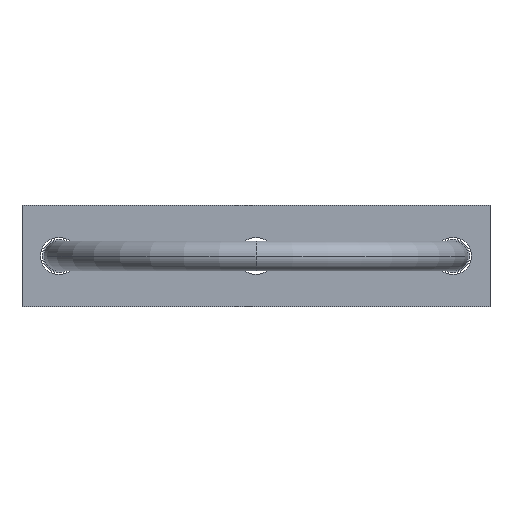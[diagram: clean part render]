
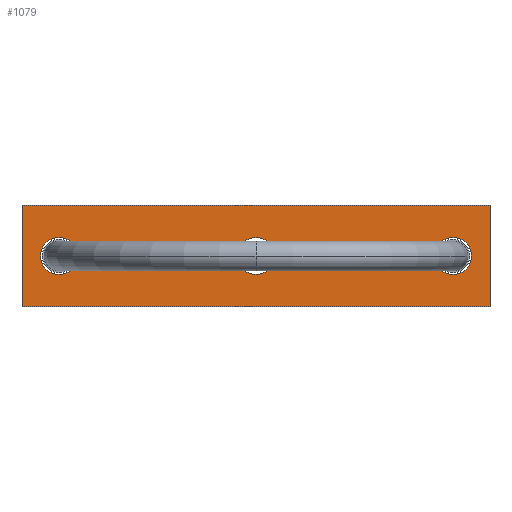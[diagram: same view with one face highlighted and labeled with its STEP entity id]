
A CAD part, front view. The second image highlights one B-rep face of the part: STEP entity #1079.
In plain terms, the highlighted planar face has unit normal (0, -1, 0).
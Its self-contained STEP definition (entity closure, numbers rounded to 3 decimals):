
#700=CARTESIAN_POINT('',(0.,67.53,0.));
#701=DIRECTION('',(0.,1.,0.));
#702=DIRECTION('',(1.,0.,0.));
#703=AXIS2_PLACEMENT_3D('',#700,#701,#702);
#708=CARTESIAN_POINT('',(0.,67.53,0.));
#709=DIRECTION('',(0.,1.,0.));
#710=DIRECTION('',(0.,0.,1.));
#711=AXIS2_PLACEMENT_3D('',#708,#709,#710);
#716=CARTESIAN_POINT('',(0.,67.53,0.));
#717=DIRECTION('',(0.,1.,0.));
#718=DIRECTION('',(-1.,0.,0.));
#719=AXIS2_PLACEMENT_3D('',#716,#717,#718);
#724=CARTESIAN_POINT('',(0.,67.53,0.));
#725=DIRECTION('',(0.,1.,0.));
#726=DIRECTION('',(0.,0.,-1.));
#727=AXIS2_PLACEMENT_3D('',#724,#725,#726);
#732=DIRECTION('',(1.,0.,0.));
#733=VECTOR('',#732,139.);
#734=CARTESIAN_POINT('',(-69.5,67.53,-15.));
#735=LINE('',#734,#733);
#739=DIRECTION('',(0.,0.,1.));
#740=VECTOR('',#739,30.);
#741=CARTESIAN_POINT('',(69.5,67.53,-15.));
#742=LINE('',#741,#740);
#746=CARTESIAN_POINT('',(58.5,67.53,0.));
#747=DIRECTION('',(0.,1.,0.));
#748=DIRECTION('',(1.,0.,0.));
#749=AXIS2_PLACEMENT_3D('',#746,#747,#748);
#754=CARTESIAN_POINT('',(58.5,67.53,0.));
#755=DIRECTION('',(0.,1.,0.));
#756=DIRECTION('',(0.,0.,1.));
#757=AXIS2_PLACEMENT_3D('',#754,#755,#756);
#762=CARTESIAN_POINT('',(58.5,67.53,0.));
#763=DIRECTION('',(0.,1.,0.));
#764=DIRECTION('',(-1.,0.,0.));
#765=AXIS2_PLACEMENT_3D('',#762,#763,#764);
#770=CARTESIAN_POINT('',(58.5,67.53,0.));
#771=DIRECTION('',(0.,1.,0.));
#772=DIRECTION('',(0.,0.,-1.));
#773=AXIS2_PLACEMENT_3D('',#770,#771,#772);
#778=CARTESIAN_POINT('',(-58.5,67.53,0.));
#779=DIRECTION('',(0.,1.,0.));
#780=DIRECTION('',(1.,0.,0.));
#781=AXIS2_PLACEMENT_3D('',#778,#779,#780);
#786=CARTESIAN_POINT('',(-58.5,67.53,0.));
#787=DIRECTION('',(0.,1.,0.));
#788=DIRECTION('',(0.,0.,1.));
#789=AXIS2_PLACEMENT_3D('',#786,#787,#788);
#794=CARTESIAN_POINT('',(-58.5,67.53,0.));
#795=DIRECTION('',(0.,1.,0.));
#796=DIRECTION('',(-1.,0.,0.));
#797=AXIS2_PLACEMENT_3D('',#794,#795,#796);
#802=CARTESIAN_POINT('',(-58.5,67.53,0.));
#803=DIRECTION('',(0.,1.,0.));
#804=DIRECTION('',(0.,0.,-1.));
#805=AXIS2_PLACEMENT_3D('',#802,#803,#804);
#817=DIRECTION('',(0.,0.,1.));
#818=VECTOR('',#817,30.);
#819=CARTESIAN_POINT('',(-69.5,67.53,-15.));
#820=LINE('',#819,#818);
#838=DIRECTION('',(1.,0.,0.));
#839=VECTOR('',#838,139.);
#840=CARTESIAN_POINT('',(-69.5,67.53,15.));
#841=LINE('',#840,#839);
#902=CARTESIAN_POINT('',(-69.5,67.53,-15.));
#903=CARTESIAN_POINT('',(69.5,67.53,-15.));
#904=VERTEX_POINT('',#902);
#905=VERTEX_POINT('',#903);
#906=CARTESIAN_POINT('',(69.5,67.53,15.));
#907=VERTEX_POINT('',#906);
#908=CARTESIAN_POINT('',(-69.5,67.53,15.));
#909=VERTEX_POINT('',#908);
#911=CARTESIAN_POINT('',(58.5,67.53,5.5));
#913=VERTEX_POINT('',#911);
#915=CARTESIAN_POINT('',(58.5,67.53,-5.5));
#917=VERTEX_POINT('',#915);
#920=CARTESIAN_POINT('',(64.,67.53,0.));
#921=VERTEX_POINT('',#920);
#924=CARTESIAN_POINT('',(53.,67.53,0.));
#925=VERTEX_POINT('',#924);
#927=CARTESIAN_POINT('',(0.,67.53,5.5));
#929=VERTEX_POINT('',#927);
#931=CARTESIAN_POINT('',(0.,67.53,-5.5));
#933=VERTEX_POINT('',#931);
#936=CARTESIAN_POINT('',(5.5,67.53,0.));
#937=VERTEX_POINT('',#936);
#940=CARTESIAN_POINT('',(-5.5,67.53,0.));
#941=VERTEX_POINT('',#940);
#943=CARTESIAN_POINT('',(-58.5,67.53,5.5));
#945=VERTEX_POINT('',#943);
#947=CARTESIAN_POINT('',(-58.5,67.53,-5.5));
#949=VERTEX_POINT('',#947);
#952=CARTESIAN_POINT('',(-53.,67.53,0.));
#953=VERTEX_POINT('',#952);
#956=CARTESIAN_POINT('',(-64.,67.53,0.));
#957=VERTEX_POINT('',#956);
#1038=CARTESIAN_POINT('',(69.5,67.53,15.));
#1039=DIRECTION('',(0.,-1.,0.));
#1040=DIRECTION('',(1.,0.,0.));
#1041=AXIS2_PLACEMENT_3D('',#1038,#1039,#1040);
#1042=PLANE('',#1041);
#1044=ORIENTED_EDGE('',*,*,#1043,.F.);
#1046=ORIENTED_EDGE('',*,*,#1045,.T.);
#1048=ORIENTED_EDGE('',*,*,#1047,.T.);
#1050=ORIENTED_EDGE('',*,*,#1049,.F.);
#1051=EDGE_LOOP('',(#1044,#1046,#1048,#1050));
#1052=FACE_OUTER_BOUND('',#1051,.F.);
#1053=ORIENTED_EDGE('',*,*,#1031,.F.);
#1054=ORIENTED_EDGE('',*,*,#1029,.F.);
#1055=ORIENTED_EDGE('',*,*,#1015,.F.);
#1056=ORIENTED_EDGE('',*,*,#1013,.F.);
#1057=EDGE_LOOP('',(#1053,#1054,#1055,#1056));
#1058=FACE_BOUND('',#1057,.F.);
#1060=ORIENTED_EDGE('',*,*,#1059,.F.);
#1062=ORIENTED_EDGE('',*,*,#1061,.F.);
#1064=ORIENTED_EDGE('',*,*,#1063,.F.);
#1066=ORIENTED_EDGE('',*,*,#1065,.F.);
#1067=EDGE_LOOP('',(#1060,#1062,#1064,#1066));
#1068=FACE_BOUND('',#1067,.F.);
#1070=ORIENTED_EDGE('',*,*,#1069,.F.);
#1072=ORIENTED_EDGE('',*,*,#1071,.F.);
#1074=ORIENTED_EDGE('',*,*,#1073,.F.);
#1076=ORIENTED_EDGE('',*,*,#1075,.F.);
#1077=EDGE_LOOP('',(#1070,#1072,#1074,#1076));
#1078=FACE_BOUND('',#1077,.F.);
#704=CIRCLE('',#703,5.5);
#712=CIRCLE('',#711,5.5);
#720=CIRCLE('',#719,5.5);
#728=CIRCLE('',#727,5.5);
#750=CIRCLE('',#749,5.5);
#758=CIRCLE('',#757,5.5);
#766=CIRCLE('',#765,5.5);
#774=CIRCLE('',#773,5.5);
#782=CIRCLE('',#781,5.5);
#790=CIRCLE('',#789,5.5);
#798=CIRCLE('',#797,5.5);
#806=CIRCLE('',#805,5.5);
#1013=EDGE_CURVE('',#933,#941,#728,.T.);
#1015=EDGE_CURVE('',#941,#929,#720,.T.);
#1029=EDGE_CURVE('',#929,#937,#712,.T.);
#1031=EDGE_CURVE('',#937,#933,#704,.T.);
#1043=EDGE_CURVE('',#904,#905,#735,.T.);
#1045=EDGE_CURVE('',#904,#909,#820,.T.);
#1047=EDGE_CURVE('',#909,#907,#841,.T.);
#1049=EDGE_CURVE('',#905,#907,#742,.T.);
#1059=EDGE_CURVE('',#921,#917,#750,.T.);
#1061=EDGE_CURVE('',#913,#921,#758,.T.);
#1063=EDGE_CURVE('',#925,#913,#766,.T.);
#1065=EDGE_CURVE('',#917,#925,#774,.T.);
#1069=EDGE_CURVE('',#953,#949,#782,.T.);
#1071=EDGE_CURVE('',#945,#953,#790,.T.);
#1073=EDGE_CURVE('',#957,#945,#798,.T.);
#1075=EDGE_CURVE('',#949,#957,#806,.T.);
#1079=ADVANCED_FACE('',(#1052,#1058,#1068,#1078),#1042,.T.);
